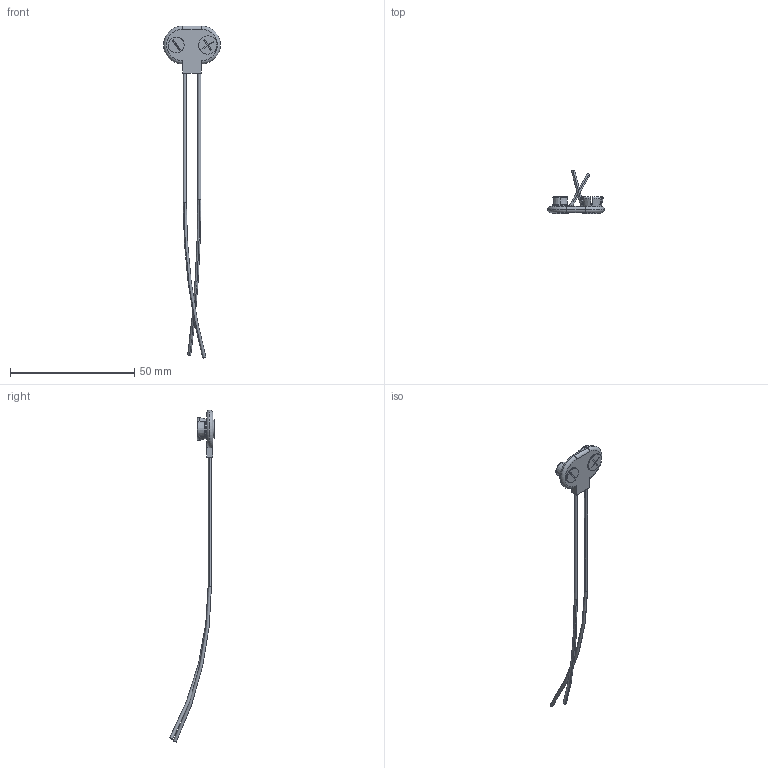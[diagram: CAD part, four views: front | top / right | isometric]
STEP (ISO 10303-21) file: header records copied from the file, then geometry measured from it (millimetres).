
FILE_DESCRIPTION (( 'STEP AP203' ), '1' );
FILE_NAME ('9 Volt battery connector prt.STEP', '2014-12-11T14:46:41', ( '' ), ( '' ), 'SwSTEP 2.0', 'SolidWorks 2015', '' );
FILE_SCHEMA (( 'CONFIG_CONTROL_DESIGN' ));
Length unit declared in the file: millimetre
Products named in the file (1): 9 Volt battery connector prt
Bounding box: 22.86 x 17.9 x 133.53 mm (x, y, z)
Surface area: 2073.1 mm2 (no closed solid volume)
Topology: 0 solids, 7 shells, 126 faces, 363 edges, 242 vertices
Faces by surface type: plane 57, torus 29, cylinder 20, cone 17, bspline 3
Entity records: 4530 total; most frequent: CARTESIAN_POINT 1193, ORIENTED_EDGE 680, DIRECTION 670, EDGE_CURVE 363, AXIS2_PLACEMENT_3D 261, VERTEX_POINT 242, LINE 148, VECTOR 148
